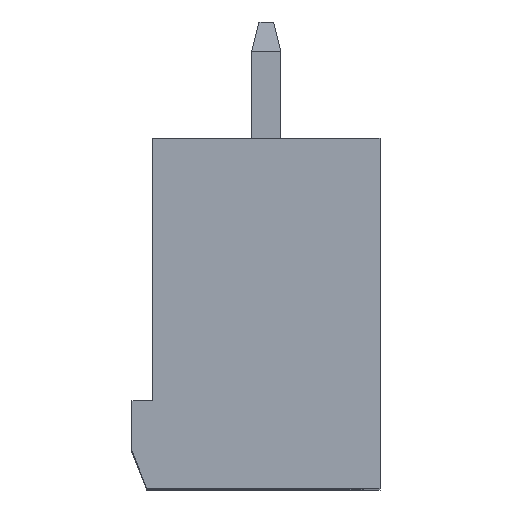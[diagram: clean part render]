
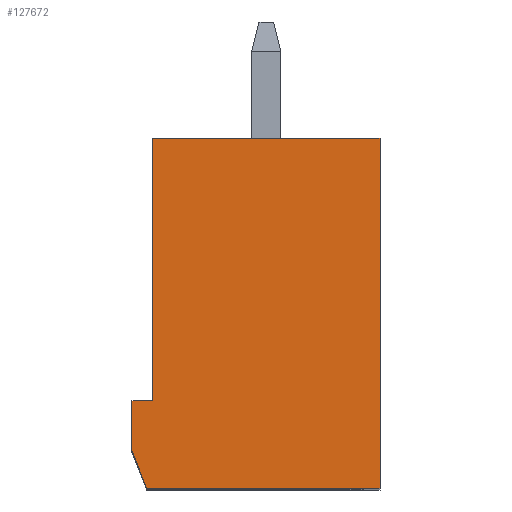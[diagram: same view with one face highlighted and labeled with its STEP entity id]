
A CAD part, top view. The second image highlights one B-rep face of the part: STEP entity #127672.
In plain terms, the highlighted planar face has unit normal (0, 0, 1).
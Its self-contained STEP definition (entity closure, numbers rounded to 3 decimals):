
#127672 = ADVANCED_FACE('',(#127673),#127687,.T.);
#127673 = FACE_BOUND('',#127674,.T.);
#127674 = EDGE_LOOP('',(#127675,#127698,#127714,#127730,#127746,#127762,
    #127778));
#127675 = ORIENTED_EDGE('',*,*,#127676,.F.);
#127676 = EDGE_CURVE('',#127677,#127679,#127681,.T.);
#127677 = VERTEX_POINT('',#127678);
#127678 = CARTESIAN_POINT('',(3.9,12.,25.4));
#127679 = VERTEX_POINT('',#127680);
#127680 = CARTESIAN_POINT('',(3.9,0.,25.4));
#127681 = SURFACE_CURVE('',#127682,(#127686),.PCURVE_S1.);
#127682 = LINE('',#127683,#127684);
#127683 = CARTESIAN_POINT('',(3.9,12.,25.4));
#127684 = VECTOR('',#127685,1.);
#127685 = DIRECTION('',(0.,-1.,0.));
#127686 = PCURVE('',#127687,#127692);
#127687 = PLANE('',#127688);
#127688 = AXIS2_PLACEMENT_3D('',#127689,#127690,#127691);
#127689 = CARTESIAN_POINT('',(0.,0.,25.4));
#127690 = DIRECTION('',(0.,0.,1.));
#127691 = DIRECTION('',(-1.,0.,0.));
#127692 = DEFINITIONAL_REPRESENTATION('',(#127693),#127697);
#127693 = LINE('',#127694,#127695);
#127694 = CARTESIAN_POINT('',(-3.9,-12.));
#127695 = VECTOR('',#127696,1.);
#127696 = DIRECTION('',(0.,1.));
#127697 = ( GEOMETRIC_REPRESENTATION_CONTEXT(2) 
PARAMETRIC_REPRESENTATION_CONTEXT() REPRESENTATION_CONTEXT('2D SPACE',''
  ) );
#127698 = ORIENTED_EDGE('',*,*,#127699,.F.);
#127699 = EDGE_CURVE('',#127700,#127677,#127702,.T.);
#127700 = VERTEX_POINT('',#127701);
#127701 = CARTESIAN_POINT('',(-3.9,12.,25.4));
#127702 = SURFACE_CURVE('',#127703,(#127707),.PCURVE_S1.);
#127703 = LINE('',#127704,#127705);
#127704 = CARTESIAN_POINT('',(-3.9,12.,25.4));
#127705 = VECTOR('',#127706,1.);
#127706 = DIRECTION('',(1.,0.,0.));
#127707 = PCURVE('',#127687,#127708);
#127708 = DEFINITIONAL_REPRESENTATION('',(#127709),#127713);
#127709 = LINE('',#127710,#127711);
#127710 = CARTESIAN_POINT('',(3.9,-12.));
#127711 = VECTOR('',#127712,1.);
#127712 = DIRECTION('',(-1.,0.));
#127713 = ( GEOMETRIC_REPRESENTATION_CONTEXT(2) 
PARAMETRIC_REPRESENTATION_CONTEXT() REPRESENTATION_CONTEXT('2D SPACE',''
  ) );
#127714 = ORIENTED_EDGE('',*,*,#127715,.F.);
#127715 = EDGE_CURVE('',#127716,#127700,#127718,.T.);
#127716 = VERTEX_POINT('',#127717);
#127717 = CARTESIAN_POINT('',(-3.9,3.,25.4));
#127718 = SURFACE_CURVE('',#127719,(#127723),.PCURVE_S1.);
#127719 = LINE('',#127720,#127721);
#127720 = CARTESIAN_POINT('',(-3.9,3.,25.4));
#127721 = VECTOR('',#127722,1.);
#127722 = DIRECTION('',(0.,1.,0.));
#127723 = PCURVE('',#127687,#127724);
#127724 = DEFINITIONAL_REPRESENTATION('',(#127725),#127729);
#127725 = LINE('',#127726,#127727);
#127726 = CARTESIAN_POINT('',(3.9,-3.));
#127727 = VECTOR('',#127728,1.);
#127728 = DIRECTION('',(0.,-1.));
#127729 = ( GEOMETRIC_REPRESENTATION_CONTEXT(2) 
PARAMETRIC_REPRESENTATION_CONTEXT() REPRESENTATION_CONTEXT('2D SPACE',''
  ) );
#127730 = ORIENTED_EDGE('',*,*,#127731,.F.);
#127731 = EDGE_CURVE('',#127732,#127716,#127734,.T.);
#127732 = VERTEX_POINT('',#127733);
#127733 = CARTESIAN_POINT('',(-4.6,3.,25.4));
#127734 = SURFACE_CURVE('',#127735,(#127739),.PCURVE_S1.);
#127735 = LINE('',#127736,#127737);
#127736 = CARTESIAN_POINT('',(-4.6,3.,25.4));
#127737 = VECTOR('',#127738,1.);
#127738 = DIRECTION('',(1.,0.,0.));
#127739 = PCURVE('',#127687,#127740);
#127740 = DEFINITIONAL_REPRESENTATION('',(#127741),#127745);
#127741 = LINE('',#127742,#127743);
#127742 = CARTESIAN_POINT('',(4.6,-3.));
#127743 = VECTOR('',#127744,1.);
#127744 = DIRECTION('',(-1.,0.));
#127745 = ( GEOMETRIC_REPRESENTATION_CONTEXT(2) 
PARAMETRIC_REPRESENTATION_CONTEXT() REPRESENTATION_CONTEXT('2D SPACE',''
  ) );
#127746 = ORIENTED_EDGE('',*,*,#127747,.F.);
#127747 = EDGE_CURVE('',#127748,#127732,#127750,.T.);
#127748 = VERTEX_POINT('',#127749);
#127749 = CARTESIAN_POINT('',(-4.6,1.3,25.4));
#127750 = SURFACE_CURVE('',#127751,(#127755),.PCURVE_S1.);
#127751 = LINE('',#127752,#127753);
#127752 = CARTESIAN_POINT('',(-4.6,1.3,25.4));
#127753 = VECTOR('',#127754,1.);
#127754 = DIRECTION('',(0.,1.,0.));
#127755 = PCURVE('',#127687,#127756);
#127756 = DEFINITIONAL_REPRESENTATION('',(#127757),#127761);
#127757 = LINE('',#127758,#127759);
#127758 = CARTESIAN_POINT('',(4.6,-1.3));
#127759 = VECTOR('',#127760,1.);
#127760 = DIRECTION('',(0.,-1.));
#127761 = ( GEOMETRIC_REPRESENTATION_CONTEXT(2) 
PARAMETRIC_REPRESENTATION_CONTEXT() REPRESENTATION_CONTEXT('2D SPACE',''
  ) );
#127762 = ORIENTED_EDGE('',*,*,#127763,.T.);
#127763 = EDGE_CURVE('',#127748,#127764,#127766,.T.);
#127764 = VERTEX_POINT('',#127765);
#127765 = CARTESIAN_POINT('',(-4.1,0.,25.4));
#127766 = SURFACE_CURVE('',#127767,(#127771),.PCURVE_S1.);
#127767 = LINE('',#127768,#127769);
#127768 = CARTESIAN_POINT('',(-4.6,1.3,25.4));
#127769 = VECTOR('',#127770,1.);
#127770 = DIRECTION('',(0.359,-0.933,0.));
#127771 = PCURVE('',#127687,#127772);
#127772 = DEFINITIONAL_REPRESENTATION('',(#127773),#127777);
#127773 = LINE('',#127774,#127775);
#127774 = CARTESIAN_POINT('',(4.6,-1.3));
#127775 = VECTOR('',#127776,1.);
#127776 = DIRECTION('',(-0.359,0.933));
#127777 = ( GEOMETRIC_REPRESENTATION_CONTEXT(2) 
PARAMETRIC_REPRESENTATION_CONTEXT() REPRESENTATION_CONTEXT('2D SPACE',''
  ) );
#127778 = ORIENTED_EDGE('',*,*,#127779,.F.);
#127779 = EDGE_CURVE('',#127679,#127764,#127780,.T.);
#127780 = SURFACE_CURVE('',#127781,(#127785),.PCURVE_S1.);
#127781 = LINE('',#127782,#127783);
#127782 = CARTESIAN_POINT('',(3.9,0.,25.4));
#127783 = VECTOR('',#127784,1.);
#127784 = DIRECTION('',(-1.,0.,0.));
#127785 = PCURVE('',#127687,#127786);
#127786 = DEFINITIONAL_REPRESENTATION('',(#127787),#127791);
#127787 = LINE('',#127788,#127789);
#127788 = CARTESIAN_POINT('',(-3.9,0.));
#127789 = VECTOR('',#127790,1.);
#127790 = DIRECTION('',(1.,0.));
#127791 = ( GEOMETRIC_REPRESENTATION_CONTEXT(2) 
PARAMETRIC_REPRESENTATION_CONTEXT() REPRESENTATION_CONTEXT('2D SPACE',''
  ) );
